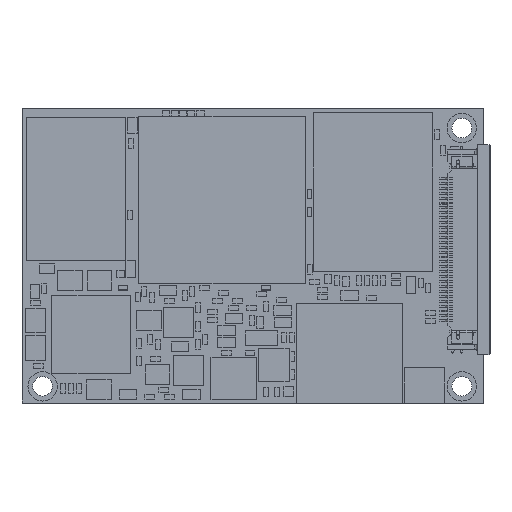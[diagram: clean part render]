
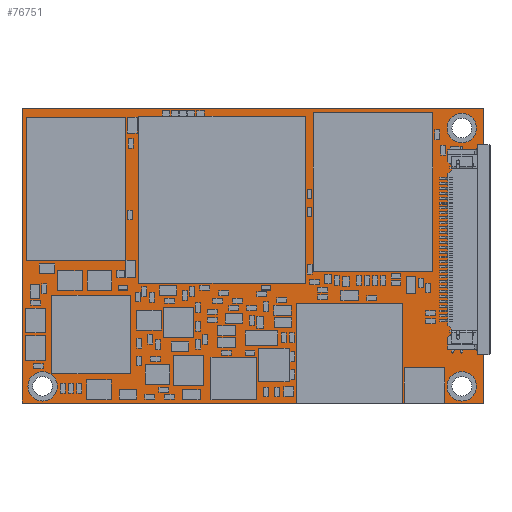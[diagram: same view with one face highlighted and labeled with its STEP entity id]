
A CAD part, top view. The second image highlights one B-rep face of the part: STEP entity #76751.
In plain terms, the highlighted planar face has unit normal (0, 0, 1).
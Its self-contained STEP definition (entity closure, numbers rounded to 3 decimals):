
#2863 = EDGE_LOOP ( 'NONE', ( #197037, #232223 ) ) ;
#4340 = VERTEX_POINT ( 'NONE', #52780 ) ;
#8671 = CIRCLE ( 'NONE', #113578, 1.5 ) ;
#10178 = ORIENTED_EDGE ( 'NONE', *, *, #186018, .F. ) ;
#11033 = LINE ( 'NONE', #227185, #13952 ) ;
#13327 = DIRECTION ( 'NONE',  ( 1., 0., 0. ) ) ;
#13952 = VECTOR ( 'NONE', #13327, 1000. ) ;
#16085 = AXIS2_PLACEMENT_3D ( 'NONE', #135557, #74495, #228961 ) ;
#16491 = VERTEX_POINT ( 'NONE', #146871 ) ;
#20730 = EDGE_LOOP ( 'NONE', ( #208102, #165011 ) ) ;
#21474 = DIRECTION ( 'NONE',  ( 1., 0., 0. ) ) ;
#25756 = DIRECTION ( 'NONE',  ( 0., 0., 1. ) ) ;
#27019 = ORIENTED_EDGE ( 'NONE', *, *, #189244, .T. ) ;
#31826 = DIRECTION ( 'NONE',  ( -1., 0., 0. ) ) ;
#35145 = CARTESIAN_POINT ( 'NONE',  ( 11.038, 10.993, 1.6 ) ) ;
#37257 = DIRECTION ( 'NONE',  ( 1., 0., 0. ) ) ;
#44083 = DIRECTION ( 'NONE',  ( 0., -1., 0. ) ) ;
#44395 = CIRCLE ( 'NONE', #151604, 1.5 ) ;
#45913 = VERTEX_POINT ( 'NONE', #104553 ) ;
#47704 = LINE ( 'NONE', #143395, #99503 ) ;
#48041 = DIRECTION ( 'NONE',  ( 0., 0., 1. ) ) ;
#49719 = ORIENTED_EDGE ( 'NONE', *, *, #242152, .F. ) ;
#51509 = CIRCLE ( 'NONE', #217629, 1.5 ) ;
#52780 = CARTESIAN_POINT ( 'NONE',  ( 0.6, 1.7, 1.6 ) ) ;
#53589 = CARTESIAN_POINT ( 'NONE',  ( 47., 30., 1.6 ) ) ;
#57187 = DIRECTION ( 'NONE',  ( 0., 0., 1. ) ) ;
#62283 = DIRECTION ( 'NONE',  ( 1., 0., 0. ) ) ;
#63427 = CARTESIAN_POINT ( 'NONE',  ( 44.8, 28., 1.6 ) ) ;
#63944 = CARTESIAN_POINT ( 'NONE',  ( 2.1, 1.7, 1.6 ) ) ;
#73192 = FACE_BOUND ( 'NONE', #147577, .T. ) ;
#74212 = VERTEX_POINT ( 'NONE', #112708 ) ;
#74495 = DIRECTION ( 'NONE',  ( 0., 0., 1. ) ) ;
#76751 = ADVANCED_FACE ( 'NONE', ( #121651, #209869, #73192, #103451, #167251 ), #161338, .T. ) ;
#83765 = VERTEX_POINT ( 'NONE', #224024 ) ;
#88083 = VERTEX_POINT ( 'NONE', #235769 ) ;
#88153 = CARTESIAN_POINT ( 'NONE',  ( 0., 0., 1.6 ) ) ;
#90351 = DIRECTION ( 'NONE',  ( 0., 1., 0. ) ) ;
#90725 = ORIENTED_EDGE ( 'NONE', *, *, #152157, .T. ) ;
#92769 = VERTEX_POINT ( 'NONE', #99149 ) ;
#93386 = CARTESIAN_POINT ( 'NONE',  ( 2.1, 1.7, 1.6 ) ) ;
#93550 = CARTESIAN_POINT ( 'NONE',  ( 44.8, 28., 1.6 ) ) ;
#98800 = CARTESIAN_POINT ( 'NONE',  ( 47., 0., 1.6 ) ) ;
#99149 = CARTESIAN_POINT ( 'NONE',  ( 3.6, 1.7, 1.6 ) ) ;
#99278 = VECTOR ( 'NONE', #167273, 1000. ) ;
#99503 = VECTOR ( 'NONE', #44083, 1000. ) ;
#100246 = ORIENTED_EDGE ( 'NONE', *, *, #212401, .F. ) ;
#103451 = FACE_OUTER_BOUND ( 'NONE', #193790, .T. ) ;
#104553 = CARTESIAN_POINT ( 'NONE',  ( 3.038, 2.993, 1.6 ) ) ;
#111224 = CARTESIAN_POINT ( 'NONE',  ( 3.038, 2.993, 1.6 ) ) ;
#111364 = DIRECTION ( 'NONE',  ( 0., 0., 1. ) ) ;
#112708 = CARTESIAN_POINT ( 'NONE',  ( 46.3, 28., 1.6 ) ) ;
#113327 = ORIENTED_EDGE ( 'NONE', *, *, #242803, .F. ) ;
#113578 = AXIS2_PLACEMENT_3D ( 'NONE', #63944, #25756, #62283 ) ;
#114676 = EDGE_CURVE ( 'NONE', #4340, #92769, #8671, .T. ) ;
#114955 = LINE ( 'NONE', #172331, #242497 ) ;
#116624 = CARTESIAN_POINT ( 'NONE',  ( 44.8, 1.7, 1.6 ) ) ;
#119665 = VECTOR ( 'NONE', #249568, 1000. ) ;
#121651 = FACE_BOUND ( 'NONE', #20730, .T. ) ;
#122599 = AXIS2_PLACEMENT_3D ( 'NONE', #63427, #48041, #180562 ) ;
#122623 = VERTEX_POINT ( 'NONE', #88153 ) ;
#123073 = DIRECTION ( 'NONE',  ( 0., 0., 1. ) ) ;
#130982 = CARTESIAN_POINT ( 'NONE',  ( 11.038, 2.993, 1.6 ) ) ;
#131526 = EDGE_CURVE ( 'NONE', #16491, #122623, #114955, .T. ) ;
#135557 = CARTESIAN_POINT ( 'NONE',  ( 44.8, 1.7, 1.6 ) ) ;
#141190 = VERTEX_POINT ( 'NONE', #174644 ) ;
#142028 = LINE ( 'NONE', #35145, #172543 ) ;
#143395 = CARTESIAN_POINT ( 'NONE',  ( 3.038, 10.993, 1.6 ) ) ;
#144835 = CIRCLE ( 'NONE', #16085, 1.5 ) ;
#146665 = CARTESIAN_POINT ( 'NONE',  ( 43.3, 28., 1.6 ) ) ;
#146871 = CARTESIAN_POINT ( 'NONE',  ( 0., 30., 1.6 ) ) ;
#147577 = EDGE_LOOP ( 'NONE', ( #100246, #220414 ) ) ;
#151604 = AXIS2_PLACEMENT_3D ( 'NONE', #116624, #57187, #21474 ) ;
#151807 = EDGE_CURVE ( 'NONE', #88083, #249382, #142028, .T. ) ;
#152031 = LINE ( 'NONE', #130982, #176449 ) ;
#152157 = EDGE_CURVE ( 'NONE', #141190, #83765, #251127, .T. ) ;
#154825 = EDGE_CURVE ( 'NONE', #92769, #4340, #220782, .T. ) ;
#158167 = DIRECTION ( 'NONE',  ( 0., 1., 0. ) ) ;
#160479 = CARTESIAN_POINT ( 'NONE',  ( 0., 0., 1.6 ) ) ;
#161338 = PLANE ( 'NONE',  #199141 ) ;
#165011 = ORIENTED_EDGE ( 'NONE', *, *, #114676, .F. ) ;
#167251 = FACE_BOUND ( 'NONE', #223013, .T. ) ;
#167273 = DIRECTION ( 'NONE',  ( 1., 0., 0. ) ) ;
#172331 = CARTESIAN_POINT ( 'NONE',  ( 0., 30., 1.6 ) ) ;
#172350 = CIRCLE ( 'NONE', #122599, 1.5 ) ;
#172543 = VECTOR ( 'NONE', #31826, 1000. ) ;
#174644 = CARTESIAN_POINT ( 'NONE',  ( 47., 0., 1.6 ) ) ;
#176449 = VECTOR ( 'NONE', #90351, 1000. ) ;
#176876 = CARTESIAN_POINT ( 'NONE',  ( 43.3, 1.7, 1.6 ) ) ;
#177420 = VERTEX_POINT ( 'NONE', #146665 ) ;
#180562 = DIRECTION ( 'NONE',  ( 1., 0., 0. ) ) ;
#185353 = VERTEX_POINT ( 'NONE', #176876 ) ;
#186018 = EDGE_CURVE ( 'NONE', #249382, #45913, #47704, .T. ) ;
#189244 = EDGE_CURVE ( 'NONE', #122623, #141190, #11033, .T. ) ;
#192512 = LINE ( 'NONE', #53589, #119665 ) ;
#193790 = EDGE_LOOP ( 'NONE', ( #245904, #27019, #90725, #199840 ) ) ;
#196623 = LINE ( 'NONE', #111224, #99278 ) ;
#197037 = ORIENTED_EDGE ( 'NONE', *, *, #200386, .F. ) ;
#199141 = AXIS2_PLACEMENT_3D ( 'NONE', #160479, #123073, #199473 ) ;
#199473 = DIRECTION ( 'NONE',  ( 1., 0., 0. ) ) ;
#199537 = VECTOR ( 'NONE', #158167, 1000. ) ;
#199788 = EDGE_CURVE ( 'NONE', #177420, #74212, #51509, .T. ) ;
#199840 = ORIENTED_EDGE ( 'NONE', *, *, #230311, .T. ) ;
#200386 = EDGE_CURVE ( 'NONE', #230015, #185353, #144835, .T. ) ;
#201726 = VERTEX_POINT ( 'NONE', #203912 ) ;
#202120 = AXIS2_PLACEMENT_3D ( 'NONE', #93386, #210452, #37257 ) ;
#203047 = CARTESIAN_POINT ( 'NONE',  ( 46.3, 1.7, 1.6 ) ) ;
#203912 = CARTESIAN_POINT ( 'NONE',  ( 11.038, 2.993, 1.6 ) ) ;
#208102 = ORIENTED_EDGE ( 'NONE', *, *, #154825, .F. ) ;
#209869 = FACE_BOUND ( 'NONE', #2863, .T. ) ;
#210384 = CARTESIAN_POINT ( 'NONE',  ( 3.038, 10.993, 1.6 ) ) ;
#210452 = DIRECTION ( 'NONE',  ( 0., 0., 1. ) ) ;
#212401 = EDGE_CURVE ( 'NONE', #74212, #177420, #172350, .T. ) ;
#217629 = AXIS2_PLACEMENT_3D ( 'NONE', #93550, #111364, #229284 ) ;
#220414 = ORIENTED_EDGE ( 'NONE', *, *, #199788, .F. ) ;
#220782 = CIRCLE ( 'NONE', #202120, 1.5 ) ;
#220863 = EDGE_CURVE ( 'NONE', #185353, #230015, #44395, .T. ) ;
#223013 = EDGE_LOOP ( 'NONE', ( #49719, #113327, #10178, #251792 ) ) ;
#224024 = CARTESIAN_POINT ( 'NONE',  ( 47., 30., 1.6 ) ) ;
#227185 = CARTESIAN_POINT ( 'NONE',  ( 0., 0., 1.6 ) ) ;
#228961 = DIRECTION ( 'NONE',  ( 1., 0., 0. ) ) ;
#229284 = DIRECTION ( 'NONE',  ( 1., 0., 0. ) ) ;
#230015 = VERTEX_POINT ( 'NONE', #203047 ) ;
#230311 = EDGE_CURVE ( 'NONE', #83765, #16491, #192512, .T. ) ;
#232223 = ORIENTED_EDGE ( 'NONE', *, *, #220863, .F. ) ;
#235769 = CARTESIAN_POINT ( 'NONE',  ( 11.038, 10.993, 1.6 ) ) ;
#242152 = EDGE_CURVE ( 'NONE', #201726, #88083, #152031, .T. ) ;
#242497 = VECTOR ( 'NONE', #251143, 1000. ) ;
#242803 = EDGE_CURVE ( 'NONE', #45913, #201726, #196623, .T. ) ;
#245904 = ORIENTED_EDGE ( 'NONE', *, *, #131526, .T. ) ;
#249382 = VERTEX_POINT ( 'NONE', #210384 ) ;
#249568 = DIRECTION ( 'NONE',  ( -1., 0., 0. ) ) ;
#251127 = LINE ( 'NONE', #98800, #199537 ) ;
#251143 = DIRECTION ( 'NONE',  ( 0., -1., 0. ) ) ;
#251792 = ORIENTED_EDGE ( 'NONE', *, *, #151807, .F. ) ;
